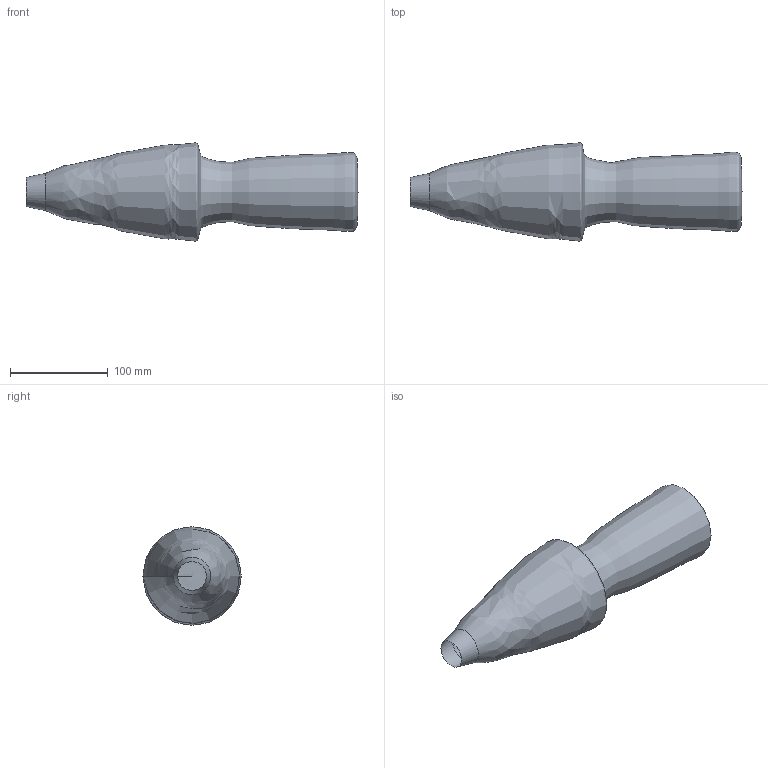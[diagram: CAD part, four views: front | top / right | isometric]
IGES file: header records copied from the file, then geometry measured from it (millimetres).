
Global section: file name: No Iges File Name specified; native system: AutoDesk Inventor R6.1; preprocessor: AutoDesk Inventor Iges Exporter R6.1; author: No Author specified; organization: No Organization specified; date: 20050811.082239; units: millimetre
Bounding box: 340.2 x 100.8 x 100.8 mm (x, y, z)
Surface area: 85605.7 mm2 (no closed solid volume)
Topology: 0 solids, 0 shells, 3 faces, 9 edges, 5 vertices
Faces by surface type: revolution 2, bspline 1
